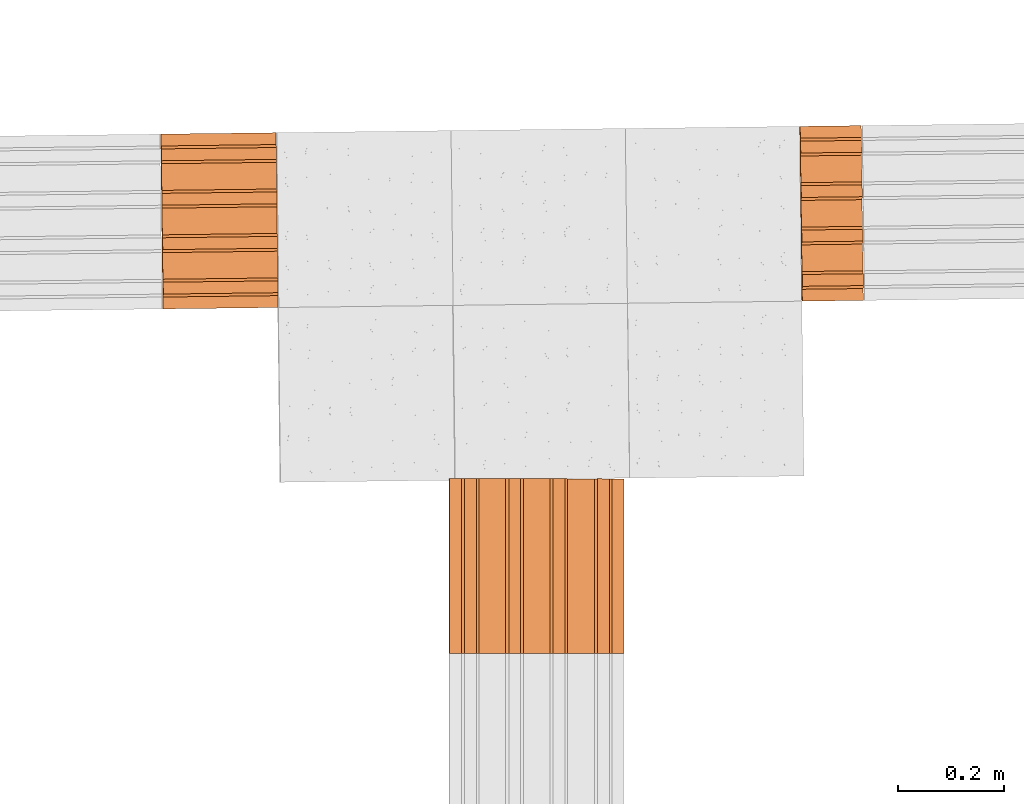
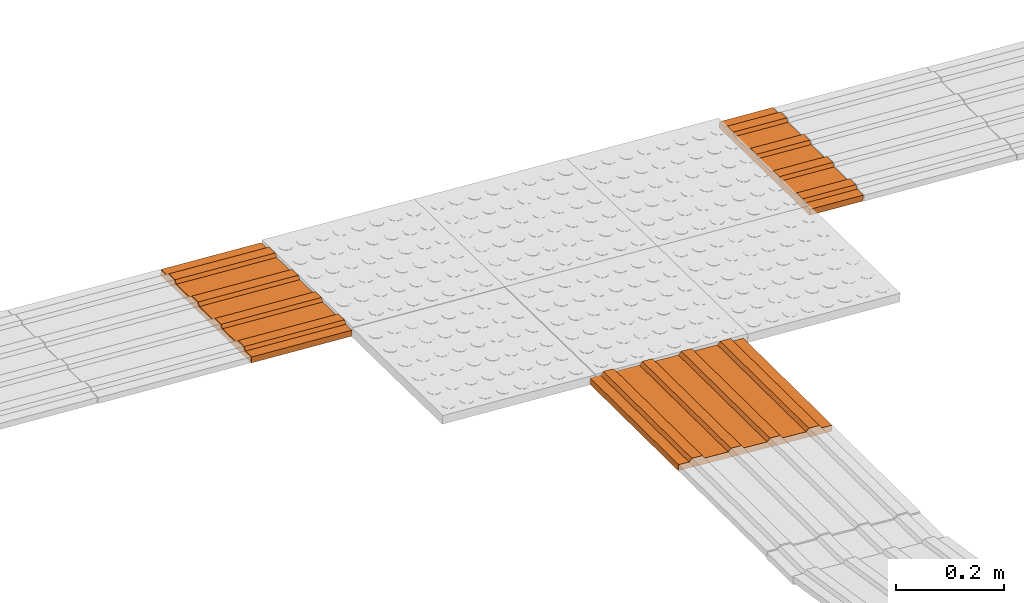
# One storey, part 233 of 237: 3 proxies.
"""IFC2X3 building model written with IfcOpenShell, lengths in millimetres."""

from ifc_helpers import new_model, entity, si_unit, converted_unit, derived_unit, money_unit, direction, frame, origin_with_axes, place, context, subcontext, project, spatial, open_shell, surface_model, type_object, element, save


model = new_model("IFC2X3")

# Units and contexts
model_context = context("Model", 3, precision=0.01, world=origin_with_axes(), true_north=direction((0.0, 1.0)))
body_context = subcontext(model_context, "Body", "Model", "MODEL_VIEW")
ifc_project = project(units=[si_unit("LENGTHUNIT", "METRE", prefix="MILLI"), si_unit("AREAUNIT", "SQUARE_METRE"), si_unit("VOLUMEUNIT", "CUBIC_METRE"), converted_unit("PLANEANGLEUNIT", "DEGREE", entity("IfcPlaneAngleMeasure", 0.0174532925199), si_unit("PLANEANGLEUNIT", "RADIAN"), dimensions=[0, 0, 0, 0, 0, 0, 0]), money_unit("USD"), converted_unit("TIMEUNIT", "Year", entity("IfcTimeMeasure", 31556926.0), si_unit("TIMEUNIT", "SECOND"), dimensions=[0, 0, 1, 0, 0, 0, 0]), si_unit("MASSUNIT", "GRAM", prefix="KILO"), si_unit("THERMODYNAMICTEMPERATUREUNIT", "DEGREE_CELSIUS"), si_unit("LUMINOUSINTENSITYUNIT", "LUMEN"), si_unit("ENERGYUNIT", "JOULE", prefix="MEGA"), derived_unit("THERMALCONDUCTANCEUNIT", [(si_unit("POWERUNIT", "WATT"), 1), (si_unit("LENGTHUNIT", "METRE"), -1), (si_unit("THERMODYNAMICTEMPERATUREUNIT", "KELVIN"), -1)]), derived_unit("SPECIFICHEATCAPACITYUNIT", [(si_unit("ENERGYUNIT", "JOULE"), 1), (si_unit("MASSUNIT", "GRAM", prefix="KILO"), -1), (si_unit("THERMODYNAMICTEMPERATUREUNIT", "KELVIN"), -1)]), derived_unit("MASSDENSITYUNIT", [(si_unit("MASSUNIT", "GRAM", prefix="KILO"), 1), (si_unit("VOLUMEUNIT", "CUBIC_METRE"), -1)])], contexts=[model_context])

# Site, building, storey
site_placement = place(None, origin_with_axes())
site = spatial("IfcSite", under=ifc_project, at=site_placement, Name="Local", CompositionType="ELEMENT")
building_placement = place(site_placement, origin_with_axes())
building = spatial("IfcBuilding", under=site, at=building_placement, Name="Construção", CompositionType="ELEMENT")
storey_placement = place(building_placement, origin_with_axes())
storey = spatial("IfcBuildingStorey", under=building, at=storey_placement, Name="Pavimento Térreo", CompositionType="ELEMENT", Elevation=0.0)

# Proxies
building_element_proxy_type = type_object("IfcBuildingElementProxyType", Name="Piso Direcional 27", PredefinedType="NOTDEFINED")
proxy_1_placement = place(storey_placement, frame((97322.8057966, 37229.1157159, -5151.83453255), z_axis=(0.0, 0.0, 1.0), x_axis=(-0.999926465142, -0.012127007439, 0.0)))
element("IfcBuildingElementProxy", 1, at=proxy_1_placement, inside=storey, type_object=building_element_proxy_type, Name="Objeto-0055", context=body_context, shape_type="SurfaceModel", body=[
    surface_model("IfcShellBasedSurfaceModel", [(-0.309064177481, -47.258225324, 4.01664745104), (216.549013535, -47.258225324, 20.7029671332), (216.037553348, -41.665004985, 27.3499854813), (-0.820524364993, -41.665004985, 10.6636657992)], [open_shell([[[0, 1, 2, 3]]])]),
    surface_model("IfcShellBasedSurfaceModel", [(217.57193391, -153.529411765, 7.40893043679), (217.57193391, 176.470588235, 7.40893043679), (216.549013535, 176.470588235, 20.7029671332), (216.549013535, 154.097706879, 20.7029671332), (216.037553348, 148.50448654, 27.3499854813), (216.037553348, 126.131605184, 27.3499854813), (216.549013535, 120.538384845, 20.7029671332), (216.549013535, 70.1994017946, 20.7029671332), (216.037553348, 64.6061814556, 27.3499854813), (216.037553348, 42.2333000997, 27.3499854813), (216.549013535, 36.6400797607, 20.7029671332), (216.549013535, -13.6989032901, 20.7029671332), (216.037553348, -19.2921236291, 27.3499854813), (216.037553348, -41.665004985, 27.3499854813), (216.549013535, -47.258225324, 20.7029671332), (216.549013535, -97.5972083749, 20.7029671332), (216.037553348, -103.190428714, 27.3499854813), (216.037553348, -125.56331007, 27.3499854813), (216.549013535, -131.156530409, 20.7029671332), (216.549013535, -153.529411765, 20.7029671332)], [open_shell([[[0, 1, 2, 3, 4, 5, 6, 7, 8, 9, 10, 11, 12, 13, 14, 15, 16, 17, 18, 19]]])]),
    surface_model("IfcShellBasedSurfaceModel", [(-0.820524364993, -19.2921236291, 10.6636657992), (216.037553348, -19.2921236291, 27.3499854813), (216.549013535, -13.6989032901, 20.7029671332), (-0.309064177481, -13.6989032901, 4.01664745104)], [open_shell([[[0, 1, 2, 3]]])]),
    surface_model("IfcShellBasedSurfaceModel", [(-0.820524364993, -103.190428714, 10.6636657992), (216.037553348, -103.190428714, 27.3499854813), (216.549013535, -97.5972083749, 20.7029671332), (-0.309064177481, -97.5972083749, 4.01664745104)], [open_shell([[[0, 1, 2, 3]]])]),
    surface_model("IfcShellBasedSurfaceModel", [(-0.820524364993, 64.6061814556, 10.6636657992), (216.037553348, 64.6061814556, 27.3499854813), (216.549013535, 70.1994017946, 20.7029671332), (-0.309064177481, 70.1994017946, 4.01664745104)], [open_shell([[[0, 1, 2, 3]]])]),
    surface_model("IfcShellBasedSurfaceModel", [(-0.309064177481, 36.6400797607, 4.01664745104), (216.549013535, 36.6400797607, 20.7029671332), (216.037553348, 42.2333000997, 27.3499854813), (-0.820524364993, 42.2333000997, 10.6636657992)], [open_shell([[[0, 1, 2, 3]]])]),
    surface_model("IfcShellBasedSurfaceModel", [(-0.309064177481, -131.156530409, 4.01664745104), (216.549013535, -131.156530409, 20.7029671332), (216.037553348, -125.56331007, 27.3499854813), (-0.820524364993, -125.56331007, 10.6636657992)], [open_shell([[[0, 1, 2, 3]]])]),
    surface_model("IfcShellBasedSurfaceModel", [(-0.309064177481, 176.470588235, 4.01664745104), (-0.309064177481, 154.097706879, 4.01664745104), (216.549013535, 154.097706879, 20.7029671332), (216.549013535, 176.470588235, 20.7029671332)], [open_shell([[[0, 1, 2, 3]]])]),
    surface_model("IfcShellBasedSurfaceModel", [(-0.309064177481, 120.538384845, 4.01664745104), (216.549013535, 120.538384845, 20.7029671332), (216.037553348, 126.131605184, 27.3499854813), (-0.820524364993, 126.131605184, 10.6636657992)], [open_shell([[[0, 1, 2, 3]]])]),
    surface_model("IfcShellBasedSurfaceModel", [(-0.820524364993, 148.50448654, 10.6636657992), (216.037553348, 148.50448654, 27.3499854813), (216.549013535, 154.097706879, 20.7029671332), (-0.309064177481, 154.097706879, 4.01664745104)], [open_shell([[[0, 1, 2, 3]]])]),
    surface_model("IfcShellBasedSurfaceModel", [(-0.309064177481, 36.6400797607, 4.01664745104), (-0.309064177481, -13.6989032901, 4.01664745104), (216.549013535, -13.6989032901, 20.7029671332), (216.549013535, 36.6400797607, 20.7029671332)], [open_shell([[[0, 1, 2, 3]]])]),
    surface_model("IfcShellBasedSurfaceModel", [(-0.309064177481, 120.538384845, 4.01664745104), (-0.309064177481, 70.1994017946, 4.01664745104), (216.549013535, 70.1994017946, 20.7029671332), (216.549013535, 120.538384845, 20.7029671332)], [open_shell([[[0, 1, 2, 3]]])]),
    surface_model("IfcShellBasedSurfaceModel", [(-0.820524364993, 148.50448654, 10.6636657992), (-0.820524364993, 126.131605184, 10.6636657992), (216.037553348, 126.131605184, 27.3499854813), (216.037553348, 148.50448654, 27.3499854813)], [open_shell([[[0, 1, 2, 3]]])]),
    surface_model("IfcShellBasedSurfaceModel", [(-0.309064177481, 120.538384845, 4.01664745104), (-0.820524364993, 126.131605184, 10.6636657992), (-0.820524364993, 148.50448654, 10.6636657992), (-0.309064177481, 154.097706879, 4.01664745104), (-0.309064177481, 176.470588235, 4.01664745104), (0.713856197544, 176.470588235, -9.27738924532), (0.713856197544, -153.529411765, -9.27738924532), (-0.309064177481, -153.529411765, 4.01664745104), (-0.309064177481, -131.156530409, 4.01664745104), (-0.820524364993, -125.56331007, 10.6636657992), (-0.820524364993, -103.190428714, 10.6636657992), (-0.309064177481, -97.5972083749, 4.01664745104), (-0.309064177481, -47.258225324, 4.01664745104), (-0.820524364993, -41.665004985, 10.6636657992), (-0.820524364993, -19.2921236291, 10.6636657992), (-0.309064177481, -13.6989032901, 4.01664745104), (-0.309064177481, 36.6400797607, 4.01664745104), (-0.820524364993, 42.2333000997, 10.6636657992), (-0.820524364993, 64.6061814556, 10.6636657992), (-0.309064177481, 70.1994017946, 4.01664745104)], [open_shell([[[0, 1, 2, 3, 4, 5, 6, 7, 8, 9, 10, 11, 12, 13, 14, 15, 16, 17, 18, 19]]])]),
    surface_model("IfcShellBasedSurfaceModel", [(216.037553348, -41.665004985, 27.3499854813), (216.037553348, -19.2921236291, 27.3499854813), (-0.820524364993, -19.2921236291, 10.6636657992), (-0.820524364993, -41.665004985, 10.6636657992)], [open_shell([[[0, 1, 2, 3]]])]),
    surface_model("IfcShellBasedSurfaceModel", [(-0.309064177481, -47.258225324, 4.01664745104), (-0.309064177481, -97.5972083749, 4.01664745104), (216.549013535, -97.5972083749, 20.7029671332), (216.549013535, -47.258225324, 20.7029671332)], [open_shell([[[0, 1, 2, 3]]])]),
    surface_model("IfcShellBasedSurfaceModel", [(216.037553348, 42.2333000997, 27.3499854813), (216.037553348, 64.6061814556, 27.3499854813), (-0.820524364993, 64.6061814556, 10.6636657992), (-0.820524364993, 42.2333000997, 10.6636657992)], [open_shell([[[0, 1, 2, 3]]])]),
    surface_model("IfcShellBasedSurfaceModel", [(216.037553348, -125.56331007, 27.3499854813), (216.037553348, -103.190428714, 27.3499854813), (-0.820524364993, -103.190428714, 10.6636657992), (-0.820524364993, -125.56331007, 10.6636657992)], [open_shell([[[0, 1, 2, 3]]])]),
    surface_model("IfcShellBasedSurfaceModel", [(217.57193391, 176.470588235, 7.40893043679), (0.713856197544, 176.470588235, -9.27738924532), (-0.309064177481, 176.470588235, 4.01664745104), (216.549013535, 176.470588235, 20.7029671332)], [open_shell([[[0, 1, 2, 3]]])]),
    surface_model("IfcShellBasedSurfaceModel", [(217.57193391, -153.529411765, 7.40893043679), (0.713856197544, -153.529411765, -9.27738924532), (0.713856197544, 176.470588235, -9.27738924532), (217.57193391, 176.470588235, 7.40893043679)], [open_shell([[[0, 1, 2, 3]]])]),
    surface_model("IfcShellBasedSurfaceModel", [(216.549013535, -153.529411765, 20.7029671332), (216.549013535, -131.156530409, 20.7029671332), (-0.309064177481, -131.156530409, 4.01664745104), (-0.309064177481, -153.529411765, 4.01664745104)], [open_shell([[[0, 1, 2, 3]]])]),
    surface_model("IfcShellBasedSurfaceModel", [(0.713856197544, -153.529411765, -9.27738924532), (217.57193391, -153.529411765, 7.40893043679), (216.549013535, -153.529411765, 20.7029671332), (-0.309064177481, -153.529411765, 4.01664745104)], [open_shell([[[0, 1, 2, 3]]])]),
])
proxy_2_placement = place(storey_placement, frame((97801.7189326, 36729.3867114, -5188.89270784), z_axis=(0.0, 0.0, 1.0), x_axis=(0.0, -1.0, 0.0)))
element("IfcBuildingElementProxy", 2, at=proxy_2_placement, inside=storey, type_object=building_element_proxy_type, Name="Objeto-0055", context=body_context, shape_type="SurfaceModel", body=[
    surface_model("IfcShellBasedSurfaceModel", [(-0.06669038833, -46.8098794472, 7.64196157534), (329.920744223, -46.8098794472, 10.5217182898), (329.866483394, -40.7216835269, 16.7393934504), (-0.120951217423, -40.7216835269, 13.859636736)], [open_shell([[[0, 1, 2, 3]]])]),
    surface_model("IfcShellBasedSurfaceModel", [(329.965607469, -153.790778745, 5.38089948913), (330.186539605, 175.23662949, -19.9354157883), (330.070528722, 176.259549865, -6.64188528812), (330.055550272, 153.952606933, -4.92552493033), (329.993800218, 148.887331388, 2.15033040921), (329.978821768, 126.580388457, 3.866690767), (330.033082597, 120.492192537, -2.35098439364), (329.999381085, 70.3015709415, 1.51082641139), (329.937631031, 65.2362953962, 8.58668175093), (329.922652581, 42.929352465, 10.3030421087), (329.97691341, 36.8411565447, 4.08536694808), (329.943211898, -13.3494650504, 7.94717775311), (329.881461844, -18.4147405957, 15.0230330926), (329.866483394, -40.7216835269, 16.7393934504), (329.920744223, -46.8098794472, 10.5217182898), (329.887042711, -97.0005010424, 14.3835290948), (329.825292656, -102.065776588, 21.4593844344), (329.810314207, -124.372719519, 23.1757447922), (329.864575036, -130.460915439, 16.9580696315), (329.849596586, -152.76785837, 18.6744299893)], [open_shell([[[0, 1, 2, 3, 4, 5, 6, 7, 8, 9, 10, 11, 12, 13, 14, 15, 16, 17, 18, 19]]])]),
    surface_model("IfcShellBasedSurfaceModel", [(-0.105972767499, -18.4147405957, 12.1432763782), (329.881461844, -18.4147405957, 15.0230330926), (329.943211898, -13.3494650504, 7.94717775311), (-0.0442227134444, -13.3494650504, 5.06742103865)], [open_shell([[[0, 1, 2, 3]]])]),
    surface_model("IfcShellBasedSurfaceModel", [(-0.162141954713, -102.065776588, 18.5796277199), (329.825292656, -102.065776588, 21.4593844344), (329.887042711, -97.0005010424, 14.3835290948), (-0.100391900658, -97.0005010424, 11.5037723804)], [open_shell([[[0, 1, 2, 3]]])]),
    surface_model("IfcShellBasedSurfaceModel", [(-0.049803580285, 65.2362953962, 5.70692503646), (329.937631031, 65.2362953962, 8.58668175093), (329.999381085, 70.3015709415, 1.51082641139), (0.0119464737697, 70.3015709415, -1.36893030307)], [open_shell([[[0, 1, 2, 3]]])]),
    surface_model("IfcShellBasedSurfaceModel", [(-0.010521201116, 36.8411565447, 1.20561023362), (329.97691341, 36.8411565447, 4.08536694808), (329.922652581, 42.929352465, 10.3030421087), (-0.0647820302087, 42.929352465, 7.42328539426)], [open_shell([[[0, 1, 2, 3]]])]),
    surface_model("IfcShellBasedSurfaceModel", [(-0.122859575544, -130.460915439, 14.0783129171), (329.864575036, -130.460915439, 16.9580696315), (329.810314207, -124.372719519, 23.1757447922), (-0.177120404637, -124.372719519, 20.2959880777)], [open_shell([[[0, 1, 2, 3]]])]),
    surface_model("IfcShellBasedSurfaceModel", [(0.0830941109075, 176.259549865, -9.52164200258), (0.0681156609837, 153.952606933, -7.80528164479), (330.055550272, 153.952606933, -4.92552493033), (330.070528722, 176.259549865, -6.64188528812)], [open_shell([[[0, 1, 2, 3]]])]),
    surface_model("IfcShellBasedSurfaceModel", [(0.0456479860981, 120.492192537, -5.2307411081), (330.033082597, 120.492192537, -2.35098439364), (329.978821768, 126.580388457, 3.866690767), (-0.00861284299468, 126.580388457, 0.986934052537)], [open_shell([[[0, 1, 2, 3]]])]),
    surface_model("IfcShellBasedSurfaceModel", [(0.00636560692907, 148.887331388, -0.729426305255), (329.993800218, 148.887331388, 2.15033040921), (330.055550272, 153.952606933, -4.92552493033), (0.0681156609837, 153.952606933, -7.80528164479)], [open_shell([[[0, 1, 2, 3]]])]),
    surface_model("IfcShellBasedSurfaceModel", [(-0.010521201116, 36.8411565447, 1.20561023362), (-0.0442227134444, -13.3494650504, 5.06742103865), (329.943211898, -13.3494650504, 7.94717775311), (329.97691341, 36.8411565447, 4.08536694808)], [open_shell([[[0, 1, 2, 3]]])]),
    surface_model("IfcShellBasedSurfaceModel", [(0.0456479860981, 120.492192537, -5.2307411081), (0.0119464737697, 70.3015709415, -1.36893030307), (329.999381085, 70.3015709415, 1.51082641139), (330.033082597, 120.492192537, -2.35098439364)], [open_shell([[[0, 1, 2, 3]]])]),
    surface_model("IfcShellBasedSurfaceModel", [(0.00636560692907, 148.887331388, -0.729426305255), (-0.00861284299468, 126.580388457, 0.986934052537), (329.978821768, 126.580388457, 3.866690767), (329.993800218, 148.887331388, 2.15033040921)], [open_shell([[[0, 1, 2, 3]]])]),
    surface_model("IfcShellBasedSurfaceModel", [(0.0456479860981, 120.492192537, -5.2307411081), (-0.00861284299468, 126.580388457, 0.986934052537), (0.00636560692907, 148.887331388, -0.729426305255), (0.0681156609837, 153.952606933, -7.80528164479), (0.0830941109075, 176.259549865, -9.52164200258), (0.199104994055, 175.23662949, -22.8151725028), (-0.0218271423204, -153.790778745, 2.50114277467), (-0.137838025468, -152.76785837, 15.7946732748), (-0.122859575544, -130.460915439, 14.0783129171), (-0.177120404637, -124.372719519, 20.2959880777), (-0.162141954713, -102.065776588, 18.5796277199), (-0.100391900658, -97.0005010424, 11.5037723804), (-0.06669038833, -46.8098794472, 7.64196157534), (-0.120951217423, -40.7216835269, 13.859636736), (-0.105972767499, -18.4147405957, 12.1432763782), (-0.0442227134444, -13.3494650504, 5.06742103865), (-0.010521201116, 36.8411565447, 1.20561023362), (-0.0647820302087, 42.929352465, 7.42328539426), (-0.049803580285, 65.2362953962, 5.70692503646), (0.0119464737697, 70.3015709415, -1.36893030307)], [open_shell([[[0, 1, 2, 3, 4, 5, 6, 7, 8, 9, 10, 11, 12, 13, 14, 15, 16, 17, 18, 19]]])]),
    surface_model("IfcShellBasedSurfaceModel", [(329.866483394, -40.7216835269, 16.7393934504), (329.881461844, -18.4147405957, 15.0230330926), (-0.105972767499, -18.4147405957, 12.1432763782), (-0.120951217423, -40.7216835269, 13.859636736)], [open_shell([[[0, 1, 2, 3]]])]),
    surface_model("IfcShellBasedSurfaceModel", [(-0.06669038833, -46.8098794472, 7.64196157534), (-0.100391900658, -97.0005010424, 11.5037723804), (329.887042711, -97.0005010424, 14.3835290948), (329.920744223, -46.8098794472, 10.5217182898)], [open_shell([[[0, 1, 2, 3]]])]),
    surface_model("IfcShellBasedSurfaceModel", [(329.922652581, 42.929352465, 10.3030421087), (329.937631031, 65.2362953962, 8.58668175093), (-0.049803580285, 65.2362953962, 5.70692503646), (-0.0647820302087, 42.929352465, 7.42328539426)], [open_shell([[[0, 1, 2, 3]]])]),
    surface_model("IfcShellBasedSurfaceModel", [(329.810314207, -124.372719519, 23.1757447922), (329.825292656, -102.065776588, 21.4593844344), (-0.162141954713, -102.065776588, 18.5796277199), (-0.177120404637, -124.372719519, 20.2959880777)], [open_shell([[[0, 1, 2, 3]]])]),
    surface_model("IfcShellBasedSurfaceModel", [(330.186539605, 175.23662949, -19.9354157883), (0.199104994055, 175.23662949, -22.8151725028), (0.0830941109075, 176.259549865, -9.52164200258), (330.070528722, 176.259549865, -6.64188528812)], [open_shell([[[0, 1, 2, 3]]])]),
    surface_model("IfcShellBasedSurfaceModel", [(329.965607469, -153.790778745, 5.38089948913), (-0.0218271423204, -153.790778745, 2.50114277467), (0.199104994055, 175.23662949, -22.8151725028), (330.186539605, 175.23662949, -19.9354157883)], [open_shell([[[0, 1, 2, 3]]])]),
    surface_model("IfcShellBasedSurfaceModel", [(329.849596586, -152.76785837, 18.6744299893), (329.864575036, -130.460915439, 16.9580696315), (-0.122859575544, -130.460915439, 14.0783129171), (-0.137838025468, -152.76785837, 15.7946732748)], [open_shell([[[0, 1, 2, 3]]])]),
    surface_model("IfcShellBasedSurfaceModel", [(-0.0218271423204, -153.790778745, 2.50114277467), (329.965607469, -153.790778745, 5.38089948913), (329.849596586, -152.76785837, 18.6744299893), (-0.137838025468, -152.76785837, 15.7946732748)], [open_shell([[[0, 1, 2, 3]]])]),
])
proxy_3_placement = place(storey_placement, frame((98427.5980109, 37242.5145246, -5240.30794878), z_axis=(0.0, 0.0, 1.0), x_axis=(-0.999926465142, -0.012127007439, 0.0)))
element("IfcBuildingElementProxy", 3, at=proxy_3_placement, inside=storey, type_object=building_element_proxy_type, Name="Objeto-0055", context=body_context, shape_type="SurfaceModel", body=[
    surface_model("IfcShellBasedSurfaceModel", [(-0.309064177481, -47.258225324, 4.01664745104), (114.915878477, -47.258225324, 12.8827235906), (114.404418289, -41.665004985, 19.5297419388), (-0.820524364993, -41.665004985, 10.6636657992)], [open_shell([[[0, 1, 2, 3]]])]),
    surface_model("IfcShellBasedSurfaceModel", [(115.938798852, -153.529411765, -0.411313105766), (115.938798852, 176.470588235, -0.411313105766), (114.915878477, 176.470588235, 12.8827235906), (114.915878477, 154.097706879, 12.8827235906), (114.404418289, 148.50448654, 19.5297419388), (114.404418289, 126.131605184, 19.5297419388), (114.915878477, 120.538384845, 12.8827235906), (114.915878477, 70.1994017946, 12.8827235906), (114.404418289, 64.6061814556, 19.5297419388), (114.404418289, 42.2333000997, 19.5297419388), (114.915878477, 36.6400797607, 12.8827235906), (114.915878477, -13.6989032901, 12.8827235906), (114.404418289, -19.2921236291, 19.5297419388), (114.404418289, -41.665004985, 19.5297419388), (114.915878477, -47.258225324, 12.8827235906), (114.915878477, -97.5972083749, 12.8827235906), (114.404418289, -103.190428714, 19.5297419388), (114.404418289, -125.56331007, 19.5297419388), (114.915878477, -131.156530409, 12.8827235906), (114.915878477, -153.529411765, 12.8827235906)], [open_shell([[[0, 1, 2, 3, 4, 5, 6, 7, 8, 9, 10, 11, 12, 13, 14, 15, 16, 17, 18, 19]]])]),
    surface_model("IfcShellBasedSurfaceModel", [(-0.820524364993, -19.2921236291, 10.6636657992), (114.404418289, -19.2921236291, 19.5297419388), (114.915878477, -13.6989032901, 12.8827235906), (-0.309064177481, -13.6989032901, 4.01664745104)], [open_shell([[[0, 1, 2, 3]]])]),
    surface_model("IfcShellBasedSurfaceModel", [(-0.820524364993, -103.190428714, 10.6636657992), (114.404418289, -103.190428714, 19.5297419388), (114.915878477, -97.5972083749, 12.8827235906), (-0.309064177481, -97.5972083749, 4.01664745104)], [open_shell([[[0, 1, 2, 3]]])]),
    surface_model("IfcShellBasedSurfaceModel", [(-0.820524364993, 64.6061814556, 10.6636657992), (114.404418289, 64.6061814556, 19.5297419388), (114.915878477, 70.1994017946, 12.8827235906), (-0.309064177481, 70.1994017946, 4.01664745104)], [open_shell([[[0, 1, 2, 3]]])]),
    surface_model("IfcShellBasedSurfaceModel", [(-0.309064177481, 36.6400797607, 4.01664745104), (114.915878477, 36.6400797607, 12.8827235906), (114.404418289, 42.2333000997, 19.5297419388), (-0.820524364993, 42.2333000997, 10.6636657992)], [open_shell([[[0, 1, 2, 3]]])]),
    surface_model("IfcShellBasedSurfaceModel", [(-0.309064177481, -131.156530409, 4.01664745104), (114.915878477, -131.156530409, 12.8827235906), (114.404418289, -125.56331007, 19.5297419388), (-0.820524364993, -125.56331007, 10.6636657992)], [open_shell([[[0, 1, 2, 3]]])]),
    surface_model("IfcShellBasedSurfaceModel", [(-0.309064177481, 176.470588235, 4.01664745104), (-0.309064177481, 154.097706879, 4.01664745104), (114.915878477, 154.097706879, 12.8827235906), (114.915878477, 176.470588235, 12.8827235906)], [open_shell([[[0, 1, 2, 3]]])]),
    surface_model("IfcShellBasedSurfaceModel", [(-0.309064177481, 120.538384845, 4.01664745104), (114.915878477, 120.538384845, 12.8827235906), (114.404418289, 126.131605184, 19.5297419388), (-0.820524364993, 126.131605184, 10.6636657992)], [open_shell([[[0, 1, 2, 3]]])]),
    surface_model("IfcShellBasedSurfaceModel", [(-0.820524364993, 148.50448654, 10.6636657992), (114.404418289, 148.50448654, 19.5297419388), (114.915878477, 154.097706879, 12.8827235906), (-0.309064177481, 154.097706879, 4.01664745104)], [open_shell([[[0, 1, 2, 3]]])]),
    surface_model("IfcShellBasedSurfaceModel", [(-0.309064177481, 36.6400797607, 4.01664745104), (-0.309064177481, -13.6989032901, 4.01664745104), (114.915878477, -13.6989032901, 12.8827235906), (114.915878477, 36.6400797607, 12.8827235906)], [open_shell([[[0, 1, 2, 3]]])]),
    surface_model("IfcShellBasedSurfaceModel", [(-0.309064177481, 120.538384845, 4.01664745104), (-0.309064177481, 70.1994017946, 4.01664745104), (114.915878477, 70.1994017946, 12.8827235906), (114.915878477, 120.538384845, 12.8827235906)], [open_shell([[[0, 1, 2, 3]]])]),
    surface_model("IfcShellBasedSurfaceModel", [(-0.820524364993, 148.50448654, 10.6636657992), (-0.820524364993, 126.131605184, 10.6636657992), (114.404418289, 126.131605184, 19.5297419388), (114.404418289, 148.50448654, 19.5297419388)], [open_shell([[[0, 1, 2, 3]]])]),
    surface_model("IfcShellBasedSurfaceModel", [(-0.309064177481, 120.538384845, 4.01664745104), (-0.820524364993, 126.131605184, 10.6636657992), (-0.820524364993, 148.50448654, 10.6636657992), (-0.309064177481, 154.097706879, 4.01664745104), (-0.309064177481, 176.470588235, 4.01664745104), (0.713856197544, 176.470588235, -9.27738924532), (0.713856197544, -153.529411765, -9.27738924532), (-0.309064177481, -153.529411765, 4.01664745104), (-0.309064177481, -131.156530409, 4.01664745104), (-0.820524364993, -125.56331007, 10.6636657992), (-0.820524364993, -103.190428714, 10.6636657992), (-0.309064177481, -97.5972083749, 4.01664745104), (-0.309064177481, -47.258225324, 4.01664745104), (-0.820524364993, -41.665004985, 10.6636657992), (-0.820524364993, -19.2921236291, 10.6636657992), (-0.309064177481, -13.6989032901, 4.01664745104), (-0.309064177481, 36.6400797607, 4.01664745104), (-0.820524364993, 42.2333000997, 10.6636657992), (-0.820524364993, 64.6061814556, 10.6636657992), (-0.309064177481, 70.1994017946, 4.01664745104)], [open_shell([[[0, 1, 2, 3, 4, 5, 6, 7, 8, 9, 10, 11, 12, 13, 14, 15, 16, 17, 18, 19]]])]),
    surface_model("IfcShellBasedSurfaceModel", [(114.404418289, -41.665004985, 19.5297419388), (114.404418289, -19.2921236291, 19.5297419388), (-0.820524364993, -19.2921236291, 10.6636657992), (-0.820524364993, -41.665004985, 10.6636657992)], [open_shell([[[0, 1, 2, 3]]])]),
    surface_model("IfcShellBasedSurfaceModel", [(-0.309064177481, -47.258225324, 4.01664745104), (-0.309064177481, -97.5972083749, 4.01664745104), (114.915878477, -97.5972083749, 12.8827235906), (114.915878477, -47.258225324, 12.8827235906)], [open_shell([[[0, 1, 2, 3]]])]),
    surface_model("IfcShellBasedSurfaceModel", [(114.404418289, 42.2333000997, 19.5297419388), (114.404418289, 64.6061814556, 19.5297419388), (-0.820524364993, 64.6061814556, 10.6636657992), (-0.820524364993, 42.2333000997, 10.6636657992)], [open_shell([[[0, 1, 2, 3]]])]),
    surface_model("IfcShellBasedSurfaceModel", [(114.404418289, -125.56331007, 19.5297419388), (114.404418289, -103.190428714, 19.5297419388), (-0.820524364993, -103.190428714, 10.6636657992), (-0.820524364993, -125.56331007, 10.6636657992)], [open_shell([[[0, 1, 2, 3]]])]),
    surface_model("IfcShellBasedSurfaceModel", [(115.938798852, 176.470588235, -0.411313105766), (0.713856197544, 176.470588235, -9.27738924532), (-0.309064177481, 176.470588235, 4.01664745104), (114.915878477, 176.470588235, 12.8827235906)], [open_shell([[[0, 1, 2, 3]]])]),
    surface_model("IfcShellBasedSurfaceModel", [(115.938798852, -153.529411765, -0.411313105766), (0.713856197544, -153.529411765, -9.27738924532), (0.713856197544, 176.470588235, -9.27738924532), (115.938798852, 176.470588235, -0.411313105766)], [open_shell([[[0, 1, 2, 3]]])]),
    surface_model("IfcShellBasedSurfaceModel", [(114.915878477, -153.529411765, 12.8827235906), (114.915878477, -131.156530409, 12.8827235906), (-0.309064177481, -131.156530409, 4.01664745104), (-0.309064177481, -153.529411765, 4.01664745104)], [open_shell([[[0, 1, 2, 3]]])]),
    surface_model("IfcShellBasedSurfaceModel", [(0.713856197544, -153.529411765, -9.27738924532), (115.938798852, -153.529411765, -0.411313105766), (114.915878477, -153.529411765, 12.8827235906), (-0.309064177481, -153.529411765, 4.01664745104)], [open_shell([[[0, 1, 2, 3]]])]),
])

save(model, "model.ifc")
